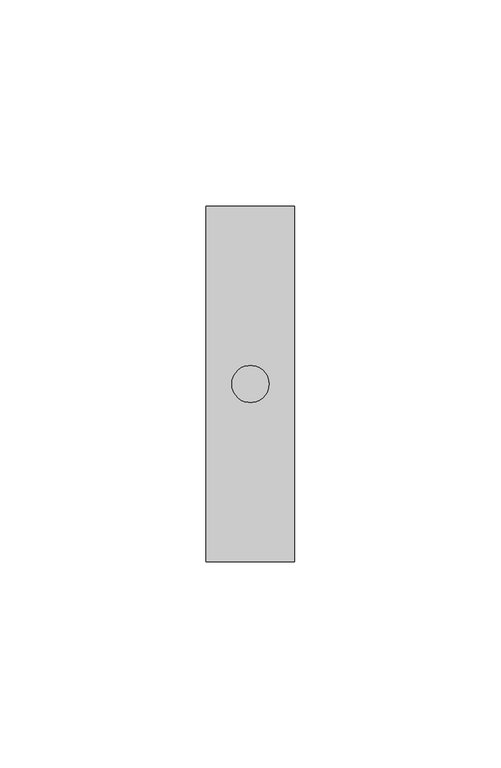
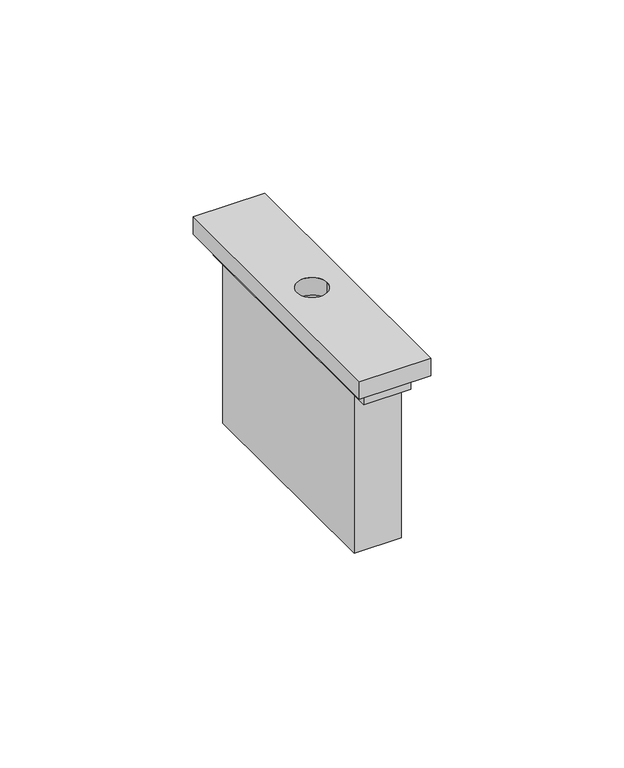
"""IFC4 building model written with IfcOpenShell, lengths in millimetres: proxy geometry, BT_LN-CoverDispositiviFalsiPoliConUscita : Cover Per Dispositivi Falsi Poli Con Uscita - Art. K4953 - 1M - Cover Bianco."""

from ifc_helpers import new_model, si_unit, point, frame, origin, origin_2d, place, context, project, spatial, polyline, circle_curve, trimmed, segment, composite_curve, outline, extrude, source, transform, mapped, element, save
from ifc_brep_helpers import plane_surface, revolved_surface, advanced_brep


def electrical_fixtures_17be88af(model_context):
    return source(origin(), model_context, "Body", "SolidModel", [
        advanced_brep(
        [(-7.0, 34.0, 50.0), (-7.0, -34.0, 50.0), (7.0, -34.0, 50.0), (7.0, 34.0, 50.0), (4.5, 0.0, 50.0), (-4.5, 0.0, 50.0), (-7.0, 34.0, 0.0), (7.0, 34.0, 0.0), (7.0, -34.0, 0.0), (-7.0, -34.0, 0.0), (-4.5, 0.0, 30.0), (4.5, 0.0, 30.0)],
        [
            (0, 1),
            (1, 2),
            (2, 3),
            (3, 0),
            (4, 5, circle_curve(frame((0.0, 0.0, 50.0), z_axis=(0.0, 0.0, -1.0), x_axis=(1.0, 0.0, 0.0)), 4.5)),
            (5, 4, circle_curve(frame((0.0, 0.0, 50.0), z_axis=(0.0, 0.0, -1.0), x_axis=(1.0, 0.0, 0.0)), 4.5)),
            (6, 7),
            (7, 8),
            (8, 9),
            (9, 6),
            (0, 6),
            (9, 1),
            (8, 2),
            (7, 3),
            (10, 11, circle_curve(frame((0.0, 0.0, 30.0), z_axis=(0.0, 0.0, 1.0), x_axis=(1.0, 0.0, 0.0)), 4.5)),
            (11, 10, circle_curve(frame((0.0, 0.0, 30.0), z_axis=(0.0, 0.0, 1.0), x_axis=(1.0, 0.0, 0.0)), 4.5)),
            (10, 5),
            (4, 11),
        ],
        [
            plane_surface(frame((-7.0, 2000.0, 50.0), z_axis=(0.0, 0.0, 1.0), x_axis=(0.0, -1.0, 0.0))),
            plane_surface(frame((-7.0, 2000.0, 0.0), z_axis=(0.0, 0.0, -1.0), x_axis=(0.0, 1.0, 0.0))),
            plane_surface(frame((-7.0, 34.0, 50.0), z_axis=(-1.0, 0.0, 0.0), x_axis=(0.0, 0.0, -1.0))),
            plane_surface(frame((-7.0, -34.0, 50.0), z_axis=(0.0, -1.0, 0.0), x_axis=(0.0, 0.0, -1.0))),
            plane_surface(frame((7.0, -34.0, 50.0), z_axis=(1.0, 0.0, 0.0), x_axis=(0.0, 0.0, -1.0))),
            plane_surface(frame((7.0, 34.0, 50.0), z_axis=(0.0, 1.0, 0.0), x_axis=(0.0, 0.0, -1.0))),
            plane_surface(frame((4.5, 0.0, 30.0), z_axis=(0.0, 0.0, 1.0), x_axis=(0.0, -1.0, 0.0))),
            revolved_surface(polyline([(4.5, 0.0, 50.0), (4.5, 0.0, 30.0)]), (0.0, 0.0, 30.0), (0.0, 0.0, 1.0)),
        ],
        [
            (0, [[1, 2, 3, 4], [5, 6]]),
            (1, [[7, 8, 9, 10]]),
            (2, [[-1, 11, -10, 12]]),
            (3, [[-2, -12, -9, 13]]),
            (4, [[-3, -13, -8, 14]]),
            (5, [[-4, -14, -7, -11]]),
            (6, [[15, 16]]),
            (7, [[-15, 17, -5, 18]]),
            (7, [[-16, -18, -6, -17]]),
        ],
    ),
        extrude(outline(polyline([(-10.7, -43.0), (-10.7, 43.0), (10.7, 43.0), (10.7, -43.0), (-10.7, -43.0)]), holes=[composite_curve([segment(trimmed(circle_curve(origin_2d(), 4.5), [point((-4.5, 0.0))], [point((4.5, 0.0))], True, "CARTESIAN"), True, "CONTINUOUS"), segment(trimmed(circle_curve(origin_2d(), 4.5), [point((4.5, 0.0))], [point((-4.5, 0.0))], True, "CARTESIAN"), True, "CONTINUOUS")], self_intersect=False)]), frame((0.0, 0.0, 55.5), z_axis=(0.0, 0.0, 1.0), x_axis=(1.0, 0.0, 0.0)), (0.0, 0.0, 1.0), 5.5),
        extrude(outline(polyline([(-7.0, 39.0), (7.0, 39.0), (7.0, -39.0), (-7.0, -39.0), (-7.0, 39.0)]), holes=[composite_curve([segment(trimmed(circle_curve(origin_2d(), 4.5), [point((-4.5, 0.0))], [point((4.5, 0.0))], True, "CARTESIAN"), True, "CONTINUOUS"), segment(trimmed(circle_curve(origin_2d(), 4.5), [point((4.5, 0.0))], [point((-4.5, 0.0))], True, "CARTESIAN"), True, "CONTINUOUS")], self_intersect=False)]), frame((0.0, 0.0, 50.0), z_axis=(0.0, 0.0, 1.0), x_axis=(1.0, 0.0, 0.0)), (0.0, 0.0, 1.0), 5.5),
    ])


if __name__ == "__main__":
    model = new_model("IFC4")
    model_context = context("Model", 3, world=origin())
    ifc_project = project(units=[si_unit("LENGTHUNIT", "METRE", prefix="MILLI")], contexts=[model_context])
    site = spatial("IfcSite", under=ifc_project)
    building = spatial("IfcBuilding", under=site)
    placement = place(None, origin())
    electrical_fixtures_shape = electrical_fixtures_17be88af(model_context)
    element("IfcBuildingElementProxy", 1, Name="BT_LN-CoverDispositiviFalsiPoliConUscita : Cover Per Dispositivi Falsi Poli Con Uscita - Art. K4953 - 1M - Cover Bianco", ObjectType="BT_LN-CoverDispositiviFalsiPoliConUscita : Cover Per Dispositivi Falsi Poli Con Uscita - Art. K4953 - 1M - Cover Bianco", at=placement, inside=building, context=model_context, shape_type="MappedRepresentation", body=[
        mapped(electrical_fixtures_shape, transform((0.0, 0.0, 0.0), x_axis=(1.0, 0.0, 0.0), y_axis=(0.0, 1.0, 0.0), z_axis=(0.0, 0.0, 1.0))),
    ])
    save(model, "model.ifc")
